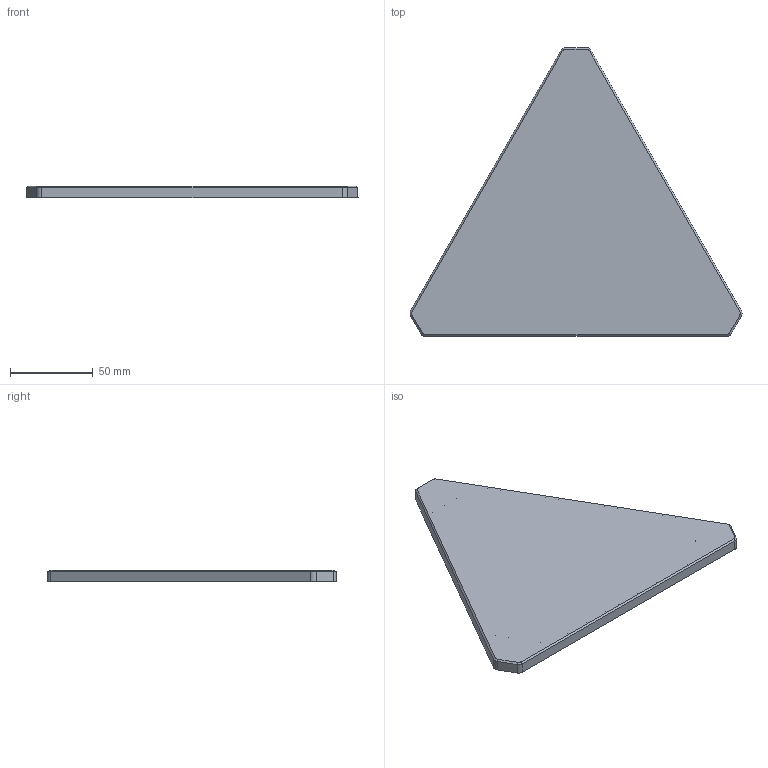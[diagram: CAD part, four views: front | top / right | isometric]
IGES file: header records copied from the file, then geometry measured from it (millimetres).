
Global section: file name: Tile Top; native system: Autodesk Inventor 2017; preprocessor: unknown; author: cdrsk; date: 20181227.183838; units: millimetre
Bounding box: 200.65 x 174.63 x 7.2 mm (x, y, z)
Volume: 19326.5 mm3; surface area: 48206.7 mm2
Topology: 1 solids, 1 shells, 65 faces, 162 edges, 104 vertices
Faces by surface type: bspline 65
